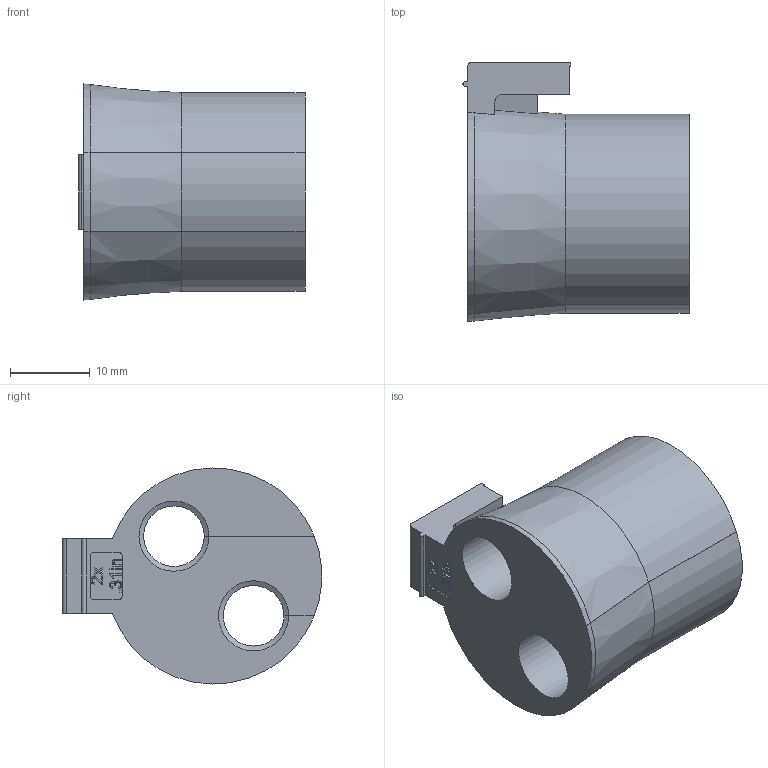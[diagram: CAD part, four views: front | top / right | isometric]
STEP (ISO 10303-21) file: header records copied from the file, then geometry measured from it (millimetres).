
FILE_DESCRIPTION(/* description */ (''),/* implementation_level */ '2;1');
FILE_NAME(/* name */ 'H:\SapWorkDir\Inventor\MP1\ConvertTempPath\87_12_121342_00_A_220525_KDT-X 2x8.stp',/* time_stamp */ '2022-05-30T13:04:16+02:00',/* author */ ('BAUER'),/* organization */ (''),/* preprocessor_version */ 'ST-DEVELOPER v16.13',/* originating_system */ 'Autodesk Inventor 2018',/* authorisation */ '');
FILE_SCHEMA (('AUTOMOTIVE_DESIGN { 1 0 10303 214 3 1 1 }'));
Length unit declared in the file: millimetre
Products named in the file (1): 121342
Bounding box: 28.4 x 32.53 x 27.14 mm (x, y, z)
Volume: 11408.5 mm3; surface area: 5820.6 mm2
Topology: 1 solids, 1 shells, 137 faces, 380 edges, 254 vertices
Faces by surface type: plane 79, bspline 32, cylinder 17, cone 9
Entity records: 4546 total; most frequent: CARTESIAN_POINT 1188, ORIENTED_EDGE 760, DIRECTION 565, EDGE_CURVE 380, LINE 267, VECTOR 267, VERTEX_POINT 254, AXIS2_PLACEMENT_3D 149
